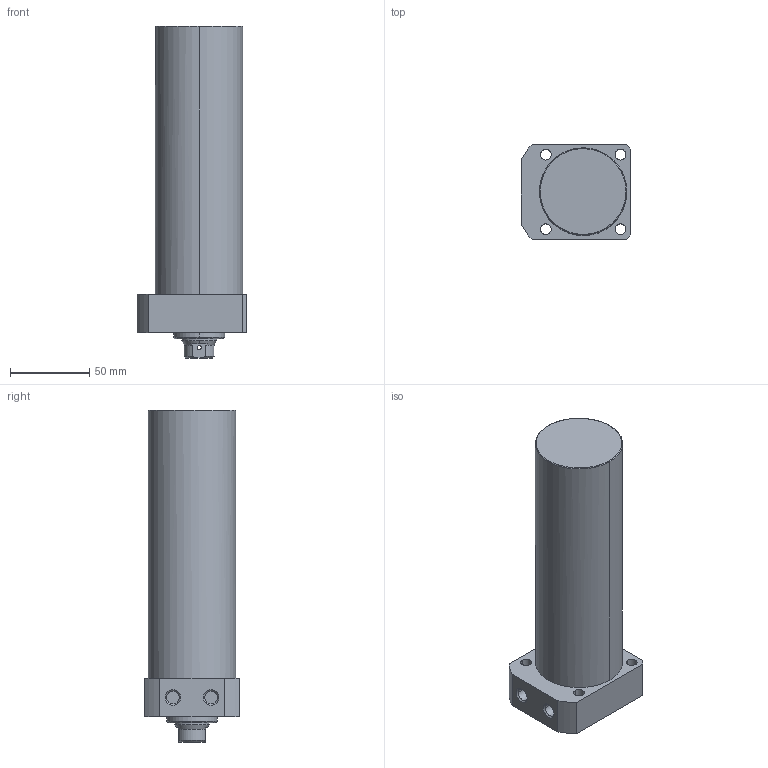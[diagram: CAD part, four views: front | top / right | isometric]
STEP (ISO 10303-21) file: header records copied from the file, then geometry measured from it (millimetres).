
FILE_DESCRIPTION((' '),'2;1');
FILE_NAME( 'TLLR-055CB-140.STEP.stp', '2025-10-24T16:34:46', (' '), ('--- Datakit www.datakit.com---'), ' Datakit CrossCadWare V2024.1 Dec 21 2023', 'Mastercam 2025', ' ');
FILE_SCHEMA(('AUTOMOTIVE_DESIGN { 1 0 10303 214 1 1 1 1 }'));
Length unit declared in the file: millimetre
Products named in the file (1): TLLR-055CB-140
Bounding box: 69 x 60 x 209 mm (x, y, z)
Volume: 499100.5 mm3; surface area: 47536.6 mm2
Topology: 1 solids, 1 shells, 67 faces, 197 edges, 136 vertices
Faces by surface type: cylinder 32, plane 19, cone 14, torus 2
Entity records: 3058 total; most frequent: CARTESIAN_POINT 1139, DIRECTION 426, ORIENTED_EDGE 390, EDGE_CURVE 195, AXIS2_PLACEMENT_3D 179, VERTEX_POINT 136, CIRCLE 111, EDGE_LOOP 85
